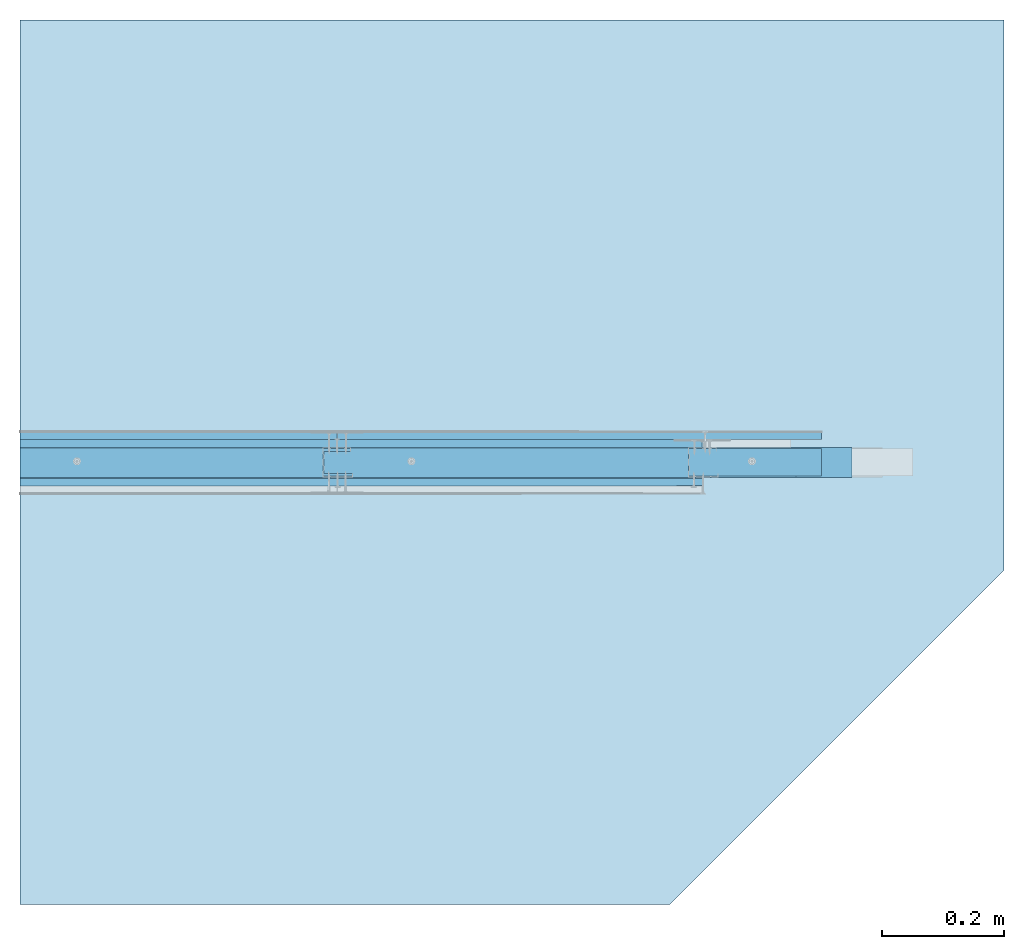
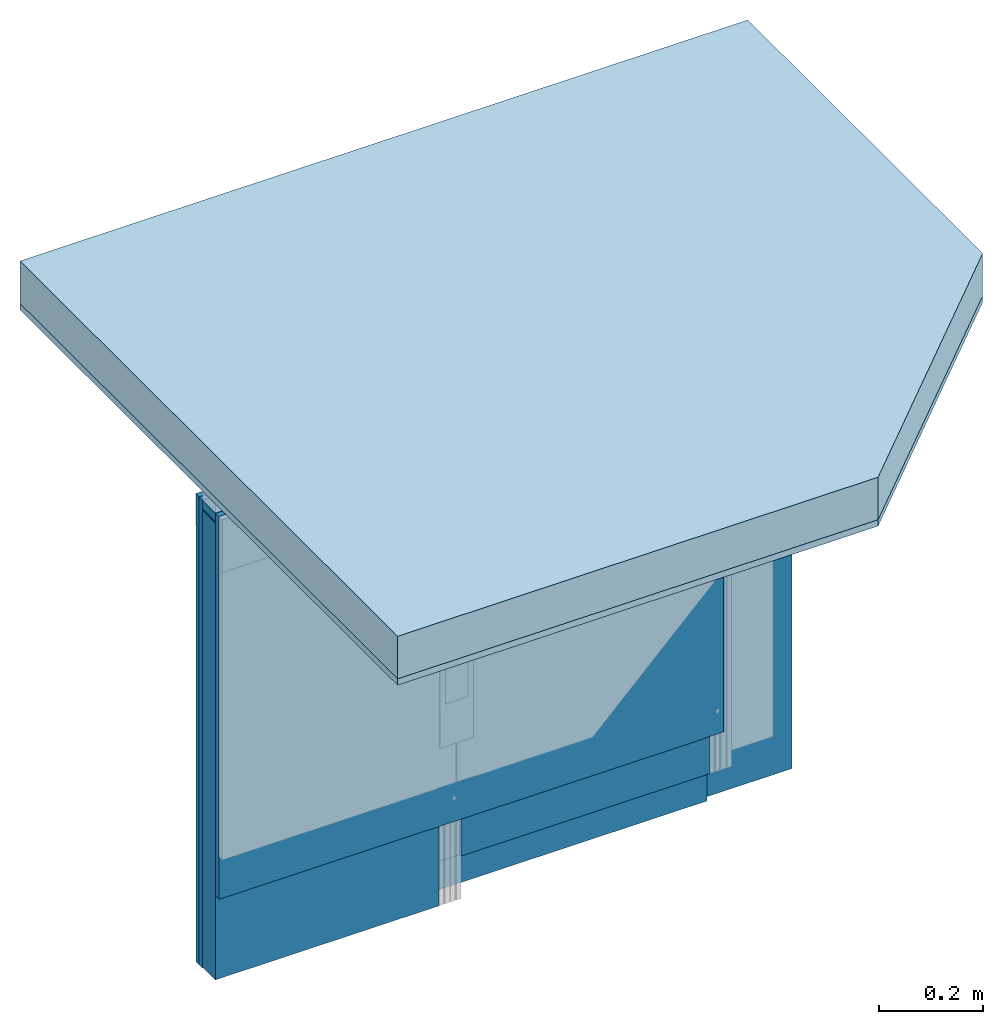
# One storey, part 1 of 36: 9 walls, 2 slabs.
"""IFC2X3 building model written with IfcOpenShell, lengths in millimetres."""

from ifc_helpers import new_model, entity, si_unit, converted_unit, direction, frame, origin, origin_with_axes, place, context, project, spatial, faceted_brep, element, save


model = new_model("IFC2X3")

# Units and contexts
model_context = context("Model", 3, precision=1e-05, world=origin(), true_north=direction((0.0, 1.0, 0.0)))
ifc_project = project(units=[si_unit("LENGTHUNIT", "METRE", prefix="MILLI"), si_unit("AREAUNIT", "SQUARE_METRE"), si_unit("VOLUMEUNIT", "CUBIC_METRE"), converted_unit("PLANEANGLEUNIT", "DEGREE", entity("IfcPlaneAngleMeasure", 0.01745), si_unit("PLANEANGLEUNIT", "RADIAN"), dimensions=[0, 0, 0, 0, 0, 0, 0]), si_unit("SOLIDANGLEUNIT", "STERADIAN"), si_unit("MASSUNIT", "GRAM"), si_unit("TIMEUNIT", "SECOND"), si_unit("THERMODYNAMICTEMPERATUREUNIT", "DEGREE_CELSIUS"), si_unit("LUMINOUSINTENSITYUNIT", "LUMEN")], contexts=[model_context])

# Site, building, storey
site_placement = place(None, origin_with_axes())
site = spatial("IfcSite", under=ifc_project, at=site_placement, Name="Default Site", CompositionType="ELEMENT")
building_placement = place(site_placement, origin_with_axes())
building = spatial("IfcBuilding", under=site, at=building_placement, Name="Default Building", CompositionType="ELEMENT")
storey_placement = place(building_placement, origin_with_axes())
storey = spatial("IfcBuildingStorey", under=building, at=storey_placement, Name="Default Building Storey", CompositionType="ELEMENT", Elevation=0.0)

# Slabs
slab_1_placement = place(storey_placement, frame((3516.951496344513, -1290.142300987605, 1402.224461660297), z_axis=(7.620176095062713e-14, 6.858158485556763e-13, -1.0), x_axis=(1.0, 9.714451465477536e-17, 7.62017609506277e-14)))
element("IfcSlab", 1, at=slab_1_placement, inside=storey, Name="STROP", context=model_context, shape_type="Brep", body=[
    faceted_brep([(226.0891218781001, -3110.283223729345, -4.200000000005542), (-323.9108781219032, -2560.283223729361, -4.200000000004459), (-323.9108781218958, -2560.283223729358, -104.1999999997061), (226.0891218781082, -3110.283223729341, -104.199999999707), (-1391.926362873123, -2560.283223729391, -104.2000000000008), (-1391.92636287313, -2560.28322372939, -4.20000000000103), (-1391.926362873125, -4014.87455750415, -104.1999999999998), (226.0891218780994, -4014.874557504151, -104.1999999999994), (-1391.926362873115, -4014.874557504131, -4.199999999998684), (226.0891218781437, -4014.874557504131, -4.200000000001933)], [[[0, 1, 2, 3]], [[4, 2, 1, 5]], [[6, 7, 3, 2, 4]], [[8, 5, 1, 0, 9]], [[0, 3, 7, 9]], [[6, 8, 9, 7]], [[6, 4, 5, 8]]]),
])
slab_2_placement = place(storey_placement, frame((3516.95149634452, -1290.142300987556, 1302.224461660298), z_axis=(7.620176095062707e-14, 6.858158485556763e-13, -1.0), x_axis=(1.0, 9.714451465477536e-17, 7.62017609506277e-14)))
element("IfcSlab", 2, at=slab_2_placement, inside=storey, Name="TYNK", context=model_context, shape_type="Brep", body=[
    faceted_brep([(226.0891218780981, -3110.283223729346, -89.20000000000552), (-323.9108781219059, -2560.283223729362, -89.2000000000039), (-323.9108781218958, -2560.283223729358, -104.1999999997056), (226.0891218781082, -3110.283223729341, -104.1999999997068), (-1391.926362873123, -2560.283223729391, -104.2000000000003), (-1391.926362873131, -2560.283223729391, -89.20000000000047), (-1391.926362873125, -4014.87455750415, -104.1999999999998), (226.0891218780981, -4014.874557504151, -104.1999999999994), (-1391.926362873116, -4014.874557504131, -89.19999999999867), (226.0891218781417, -4014.874557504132, -89.2000000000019)], [[[0, 1, 2, 3]], [[4, 2, 1, 5]], [[6, 7, 3, 2, 4]], [[8, 5, 1, 0, 9]], [[0, 3, 7, 9]], [[6, 8, 9, 7]], [[6, 4, 5, 8]]]),
])

# Walls
wall_1_placement = place(storey_placement, frame((3247.741854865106, 5452.42414647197, 1344.418092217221), z_axis=(6.44634805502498e-14, -6.858158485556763e-13, -1.0), x_axis=(1.0, -1.14833748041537e-16, 9.007748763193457e-14)))
element("IfcWall", 3, at=wall_1_placement, inside=storey, Name="Taśma uszczelniająca piankowa RIGIPS", context=model_context, shape_type="Brep", body=[
    faceted_brep([(-1122.716721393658, 3477.783223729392, -5.000000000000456), (-1122.716721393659, 3477.862841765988, -6.00636944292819), (-1122.716721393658, 3432.691889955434, -5.864971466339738), (-1122.716721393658, 3432.783223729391, -5.000000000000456), (195.2987633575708, 3477.862841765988, -6.006369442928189), (195.2987633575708, 3477.783223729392, -5.000000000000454), (195.2987633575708, 3432.783223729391, -5.000000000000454), (195.2987633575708, 3432.691889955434, -5.864971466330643)], [[[0, 1, 2, 3]], [[4, 5, 6, 7]], [[5, 0, 3, 6]], [[6, 3, 2, 7]], [[7, 2, 1, 4]], [[4, 1, 0, 5]]]),
])
wall_2_placement = place(storey_placement, frame((3246.843862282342, 2022.140922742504, -35.13257794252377), z_axis=(0.0, 0.0, -1.0), x_axis=(-1.0, -8.049116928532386e-16, 0.0)))
element("IfcWall", 4, at=wall_2_placement, inside=storey, Name="Płyta gipsowo-kartonowa RIGIPS PRO (4PRO™)", context=model_context, shape_type="Brep", body=[
    faceted_brep([(1121.818728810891, 12.50000000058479, -305.5554579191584), (1121.818728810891, -3.609557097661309e-13, -305.5554579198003), (1121.818728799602, 3.495134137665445e-09, -1405.557039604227), (1121.818728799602, 12.50000000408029, -1405.557039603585), (44.99999999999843, 12.50000000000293, -305.5554579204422), (44.99999999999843, 12.50000000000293, -1405.557039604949), (40.99999999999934, 11.50000000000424, -305.5554579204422), (40.99999999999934, 11.50000000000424, -1405.557039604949), (0.9999999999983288, 11.5000000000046, -305.5554579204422), (0.9999999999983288, 11.5000000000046, -1405.557039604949), (0.7411809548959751, 11.46592582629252, -305.5554579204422), (0.7411809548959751, 11.46592582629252, -1405.557039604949), (0.4999999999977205, 11.3660254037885, -305.5554579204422), (0.4999999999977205, 11.3660254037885, -1405.557039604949), (0.29289321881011, 11.20710678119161, -305.5554579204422), (0.29289321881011, 11.20710678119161, -1405.557039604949), (0.1339745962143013, 11.00000000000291, -305.5554579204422), (0.1339745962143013, 11.00000000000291, -1405.557039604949), (0.03407417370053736, 10.7588190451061, -305.5554579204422), (0.03407417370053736, 10.7588190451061, -1405.557039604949), (-2.887645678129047e-12, 10.50000000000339, -305.5554579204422), (-2.887645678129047e-12, 10.50000000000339, -1405.557039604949), (0.0, 0.0, -305.5554579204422), (0.0, 0.0, -1405.557039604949)], [[[0, 1, 2, 3]], [[4, 0, 3, 5]], [[6, 4, 5, 7]], [[8, 6, 7, 9]], [[10, 8, 9, 11]], [[12, 10, 11, 13]], [[14, 12, 13, 15]], [[16, 14, 15, 17]], [[18, 16, 17, 19]], [[20, 18, 19, 21]], [[22, 20, 21, 23]], [[1, 22, 23, 2]], [[2, 23, 21, 19, 17, 15, 13, 11, 9, 7, 5, 3]], [[0, 4, 6, 8, 10, 12, 14, 16, 18, 20, 22, 1]]]),
])
wall_3_placement = place(storey_placement, frame((3207.215400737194, 5452.42414647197, 1344.418092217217), z_axis=(6.446348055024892e-14, -6.858158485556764e-13, -1.0), x_axis=(1.0, -1.14833748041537e-16, 9.00774876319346e-14)))
element("IfcWall", 5, at=wall_3_placement, inside=storey, Name="Profil RIGIPS UW 50 ULTRASTIL®", context=model_context, shape_type="Brep", body=[
    faceted_brep([(-943.956929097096, 3470.476261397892, -4.901701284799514), (-943.956929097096, 3470.287116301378, -4.783410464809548), (-943.956929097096, 3470.128902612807, -4.626130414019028), (-1082.190267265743, 3470.128902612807, -4.626130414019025), (-1082.190267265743, 3470.476261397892, -4.901701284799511), (-943.956929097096, 3470.063927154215, -4.535249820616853), (-943.956929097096, 3470.009494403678, -4.437688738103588), (-1082.190267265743, 3470.009494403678, -4.437688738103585), (-943.956929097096, 3440.279331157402, -4.783410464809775), (-943.956929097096, 3440.090186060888, -4.901701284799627), (-943.956929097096, 3439.87952304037, -4.97511570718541), (-1082.190267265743, 3439.87952304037, -4.975115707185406), (-1082.190267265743, 3440.279331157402, -4.783410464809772), (-943.9569290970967, 3440.819375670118, -2.866589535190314), (-943.9569290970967, 3441.008520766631, -2.748298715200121), (-943.9569290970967, 3441.219183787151, -2.674884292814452), (-1082.190267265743, 3441.219183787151, -2.67488429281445), (-1082.190267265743, 3440.819375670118, -2.866589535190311), (-943.9569290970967, 3469.55792669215, -2.74829871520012), (-943.9569290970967, 3469.747071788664, -2.866589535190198), (-943.9569290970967, 3469.905285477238, -3.023869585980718), (-1082.190267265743, 3469.905285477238, -3.023869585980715), (-1082.190267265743, 3469.55792669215, -2.748298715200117), (-1082.190267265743, 3479.733223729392, 35.00000000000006), (-1082.190267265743, 3480.283223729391, 35.00000000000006), (-1082.190267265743, 3480.283223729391, -4.199999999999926), (-1082.190267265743, 3480.273374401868, -4.325147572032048), (-1082.190267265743, 3480.244068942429, -4.447213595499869), (-1082.190267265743, 3480.196028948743, -4.563192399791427), (-1082.190267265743, 3480.130437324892, -4.670228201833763), (-1082.190267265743, 3480.048909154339, -4.765685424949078), (-1082.190267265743, 3479.953451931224, -4.847213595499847), (-1082.190267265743, 3479.846416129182, -4.912805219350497), (-1082.190267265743, 3479.73043732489, -4.960845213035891), (-1082.190267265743, 3479.608371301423, -4.99015067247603), (-1082.190267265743, 3479.483223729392, -4.999999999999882), (-1082.190267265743, 3470.908620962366, -4.999999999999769), (-1082.190267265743, 3470.686924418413, -4.975115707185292), (-1082.190267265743, 3469.680725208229, -3.762311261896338), (-1082.190267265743, 3469.561316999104, -3.573869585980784), (-1082.190267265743, 3469.403103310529, -3.416589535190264), (-1082.190267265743, 3469.213958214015, -3.298298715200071), (-1082.190267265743, 3469.003295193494, -3.224884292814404), (-1082.190267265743, 3468.781598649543, -3.199999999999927), (-1082.190267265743, 3441.78484880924, -3.199999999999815), (-1082.190267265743, 3441.563152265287, -3.224884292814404), (-1082.190267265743, 3441.352489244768, -3.298298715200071), (-1082.190267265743, 3441.163344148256, -3.416589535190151), (-1082.190267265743, 3441.005130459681, -3.573869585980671), (-1082.190267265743, 3440.885722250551, -3.762311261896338), (-1082.190267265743, 3440.556953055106, -4.437688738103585), (-1082.190267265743, 3440.437544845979, -4.626130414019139), (-1082.190267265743, 3439.657826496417, -4.999999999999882), (-1082.190267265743, 3431.083223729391, -4.999999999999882), (-1082.190267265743, 3430.95807615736, -4.990150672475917), (-1082.190267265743, 3430.83601013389, -4.960845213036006), (-1082.190267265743, 3430.720031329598, -4.912805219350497), (-1082.190267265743, 3430.612995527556, -4.847213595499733), (-1082.190267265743, 3430.51753830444, -4.765685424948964), (-1082.190267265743, 3430.436010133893, -4.670228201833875), (-1082.190267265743, 3430.370418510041, -4.563192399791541), (-1082.190267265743, 3430.322378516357, -4.447213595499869), (-1082.190267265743, 3430.293073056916, -4.325147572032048), (-1082.190267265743, 3430.283223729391, -4.199999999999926), (-1082.190267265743, 3430.283223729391, 35.00000000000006), (-1082.190267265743, 3430.833223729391, 35.00000000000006), (-1082.190267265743, 3430.833223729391, -4.199999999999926), (-1082.190267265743, 3430.836301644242, -4.23910861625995), (-1082.190267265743, 3430.845459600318, -4.27725424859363), (-1082.190267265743, 3430.860472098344, -4.313497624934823), (-1082.190267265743, 3430.880969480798, -4.346946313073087), (-1082.190267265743, 3430.906447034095, -4.376776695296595), (-1082.190267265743, 3430.936277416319, -4.402254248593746), (-1082.190267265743, 3430.969726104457, -4.422751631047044), (-1082.190267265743, 3431.005969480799, -4.437764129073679), (-1082.190267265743, 3431.044115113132, -4.44692208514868), (-1082.190267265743, 3431.083223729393, -4.449999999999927), (-1082.190267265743, 3439.313858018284, -4.45000000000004), (-1082.190267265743, 3439.535554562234, -4.425115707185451), (-1082.190267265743, 3439.746217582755, -4.351701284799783), (-1082.190267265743, 3439.935362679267, -4.233410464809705), (-1082.190267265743, 3440.093576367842, -4.076130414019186), (-1082.190267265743, 3440.212984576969, -3.887688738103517), (-1082.190267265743, 3440.541753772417, -3.212311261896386), (-1082.190267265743, 3440.661161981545, -3.02386958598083), (-1082.190267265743, 3441.440880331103, -2.649999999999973), (-1082.190267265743, 3469.125567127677, -2.649999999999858), (-1082.190267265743, 3469.347263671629, -2.674884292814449), (-1082.190267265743, 3470.024693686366, -3.212311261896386), (-1082.190267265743, 3470.353462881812, -3.887688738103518), (-1082.190267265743, 3470.472871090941, -4.076130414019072), (-1082.190267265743, 3470.631084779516, -4.233410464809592), (-1082.190267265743, 3470.820229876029, -4.351701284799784), (-1082.190267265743, 3471.030892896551, -4.425115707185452), (-1082.190267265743, 3471.252589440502, -4.449999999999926), (-1082.190267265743, 3479.483223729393, -4.449999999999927), (-1082.190267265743, 3479.522332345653, -4.446922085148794), (-1082.190267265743, 3479.560477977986, -4.437764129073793), (-1082.190267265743, 3479.596721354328, -4.422751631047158), (-1082.190267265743, 3479.630170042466, -4.402254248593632), (-1082.190267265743, 3479.660000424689, -4.376776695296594), (-1082.190267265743, 3479.685477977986, -4.346946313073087), (-1082.190267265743, 3479.705975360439, -4.313497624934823), (-1082.190267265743, 3479.720987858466, -4.27725424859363), (-1082.190267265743, 3479.730145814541, -4.23910861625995), (-1082.190267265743, 3479.733223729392, -4.199999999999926), (193.5273232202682, 3480.283223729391, -4.200000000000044), (193.5273232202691, 3480.283223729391, 35.0), (193.5273232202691, 3479.733223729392, 35.0), (193.5273232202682, 3479.733223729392, -4.200000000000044), (193.5273232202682, 3479.730145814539, -4.239108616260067), (193.5273232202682, 3479.720987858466, -4.277254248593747), (193.5273232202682, 3479.705975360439, -4.313497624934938), (193.5273232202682, 3479.685477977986, -4.346946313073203), (193.5273232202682, 3479.660000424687, -4.376776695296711), (193.5273232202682, 3479.630170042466, -4.402254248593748), (193.5273232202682, 3479.596721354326, -4.422751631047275), (193.5273232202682, 3479.560477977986, -4.43776412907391), (193.5273232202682, 3479.522332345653, -4.446922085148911), (193.5273232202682, 3479.483223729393, -4.450000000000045), (193.5273232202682, 3471.252589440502, -4.450000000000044), (193.5273232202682, 3471.030892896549, -4.425115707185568), (193.5273232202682, 3470.820229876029, -4.3517012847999), (193.5273232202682, 3470.631084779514, -4.233410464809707), (193.5273232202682, 3470.472871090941, -4.076130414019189), (193.5273232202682, 3470.353462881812, -3.887688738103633), (193.5273232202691, 3470.024693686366, -3.212311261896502), (193.5273232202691, 3469.905285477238, -3.023869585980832), (193.5273232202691, 3469.747071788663, -2.866589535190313), (193.5273232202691, 3469.55792669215, -2.748298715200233), (193.5273232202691, 3469.347263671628, -2.674884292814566), (193.5273232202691, 3469.125567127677, -2.649999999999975), (193.5273232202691, 3441.440880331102, -2.650000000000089), (193.5273232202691, 3441.219183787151, -2.674884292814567), (193.5273232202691, 3441.008520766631, -2.748298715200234), (193.5273232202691, 3440.819375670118, -2.866589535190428), (193.5273232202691, 3440.661161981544, -3.023869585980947), (193.5273232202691, 3440.541753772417, -3.212311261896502), (193.5273232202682, 3440.212984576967, -3.887688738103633), (193.5273232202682, 3440.093576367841, -4.076130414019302), (193.5273232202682, 3439.935362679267, -4.233410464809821), (193.5273232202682, 3439.746217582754, -4.3517012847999), (193.5273232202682, 3439.535554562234, -4.425115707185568), (193.5273232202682, 3439.313858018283, -4.450000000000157), (193.5273232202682, 3431.083223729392, -4.450000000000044), (193.5273232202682, 3431.044115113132, -4.446922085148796), (193.5273232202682, 3431.005969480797, -4.437764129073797), (193.5273232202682, 3430.969726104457, -4.422751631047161), (193.5273232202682, 3430.936277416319, -4.402254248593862), (193.5273232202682, 3430.906447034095, -4.376776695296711), (193.5273232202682, 3430.880969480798, -4.346946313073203), (193.5273232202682, 3430.860472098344, -4.313497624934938), (193.5273232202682, 3430.845459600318, -4.277254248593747), (193.5273232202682, 3430.836301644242, -4.239108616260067), (193.5273232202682, 3430.833223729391, -4.200000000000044), (193.5273232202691, 3430.833223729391, 35.0), (193.5273232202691, 3430.283223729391, 35.0), (193.5273232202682, 3430.283223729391, -4.200000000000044), (193.5273232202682, 3430.293073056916, -4.325147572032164), (193.5273232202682, 3430.322378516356, -4.447213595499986), (193.5273232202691, 3430.370418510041, -4.563192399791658), (193.5273232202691, 3430.436010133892, -4.670228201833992), (193.5273232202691, 3430.51753830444, -4.765685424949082), (193.5273232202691, 3430.612995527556, -4.84721359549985), (193.5273232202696, 3430.720031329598, -4.912805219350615), (193.5273232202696, 3430.83601013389, -4.960845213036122), (193.5273232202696, 3430.958076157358, -4.990150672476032), (193.5273232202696, 3431.083223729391, -4.999999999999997), (193.5273232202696, 3439.657826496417, -4.999999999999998), (193.5273232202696, 3439.879523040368, -4.975115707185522), (193.5273232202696, 3440.090186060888, -4.901701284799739), (193.5273232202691, 3440.279331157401, -4.783410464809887), (193.5273232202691, 3440.437544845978, -4.626130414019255), (193.5273232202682, 3440.556953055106, -4.437688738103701), (193.5273232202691, 3440.88572225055, -3.762311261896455), (193.5273232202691, 3441.005130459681, -3.573869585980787), (193.5273232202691, 3441.163344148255, -3.416589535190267), (193.5273232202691, 3441.352489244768, -3.298298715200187), (193.5273232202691, 3441.563152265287, -3.22488429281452), (193.5273232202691, 3441.78484880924, -3.199999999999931), (193.5273232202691, 3468.781598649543, -3.200000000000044), (193.5273232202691, 3469.003295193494, -3.22488429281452), (193.5273232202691, 3469.213958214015, -3.298298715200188), (193.5273232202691, 3469.403103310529, -3.416589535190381), (193.5273232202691, 3469.561316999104, -3.5738695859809), (193.5273232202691, 3469.680725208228, -3.762311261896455), (193.5273232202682, 3470.009494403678, -4.437688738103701), (193.5273232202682, 3470.063927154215, -4.535249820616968), (193.5273232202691, 3470.128902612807, -4.626130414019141), (193.5273232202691, 3470.287116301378, -4.783410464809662), (193.5273232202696, 3470.476261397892, -4.901701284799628), (193.5273232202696, 3470.686924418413, -4.975115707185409), (193.5273232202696, 3470.908620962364, -4.999999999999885), (193.5273232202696, 3479.483223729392, -4.999999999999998), (193.5273232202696, 3479.608371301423, -4.990150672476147), (193.5273232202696, 3479.730437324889, -4.960845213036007), (193.5273232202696, 3479.846416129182, -4.912805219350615), (193.5273232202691, 3479.953451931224, -4.847213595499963), (193.5273232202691, 3480.048909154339, -4.765685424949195), (193.5273232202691, 3480.130437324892, -4.670228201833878), (193.5273232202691, 3480.196028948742, -4.563192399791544), (193.5273232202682, 3480.244068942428, -4.447213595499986), (193.5273232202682, 3480.273374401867, -4.325147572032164)], [[[0, 1, 2, 3, 4]], [[2, 5, 6, 7, 3]], [[8, 9, 10, 11, 12]], [[13, 14, 15, 16, 17]], [[18, 19, 20, 21, 22]], [[23, 24, 25, 26, 27, 28, 29, 30, 31, 32, 33, 34, 35, 36, 37, 4, 3, 7, 38, 39, 40, 41, 42, 43, 44, 45, 46, 47, 48, 49, 50, 51, 12, 11, 52, 53, 54, 55, 56, 57, 58, 59, 60, 61, 62, 63, 64, 65, 66, 67, 68, 69, 70, 71, 72, 73, 74, 75, 76, 77, 78, 79, 80, 81, 82, 83, 84, 17, 16, 85, 86, 87, 22, 21, 88, 89, 90, 91, 92, 93, 94, 95, 96, 97, 98, 99, 100, 101, 102, 103, 104, 105]], [[106, 107, 108, 109, 110, 111, 112, 113, 114, 115, 116, 117, 118, 119, 120, 121, 122, 123, 124, 125, 126, 127, 128, 129, 130, 131, 132, 133, 134, 135, 136, 137, 138, 139, 140, 141, 142, 143, 144, 145, 146, 147, 148, 149, 150, 151, 152, 153, 154, 155, 156, 157, 158, 159, 160, 161, 162, 163, 164, 165, 166, 167, 168, 169, 170, 171, 172, 173, 174, 175, 176, 177, 178, 179, 180, 181, 182, 183, 184, 185, 186, 187, 188, 189, 190, 191, 192, 193, 194, 195, 196, 197, 198, 199, 200, 201, 202]], [[63, 157, 156, 64]], [[64, 156, 155, 65]], [[65, 155, 154, 66]], [[144, 76, 75, 145]], [[74, 146, 145, 75]], [[73, 147, 146, 74]], [[147, 73, 72, 148]], [[71, 149, 148, 72]], [[149, 71, 70, 150]], [[69, 151, 150, 70]], [[68, 152, 151, 69]], [[152, 68, 67, 153]], [[66, 154, 153, 67]], [[76, 144, 143, 77]], [[81, 139, 138, 82]], [[80, 140, 139, 81]], [[79, 141, 140, 80]], [[143, 142, 78, 77]], [[78, 142, 141, 79]], [[82, 138, 137, 83]], [[15, 133, 132, 85, 16]], [[14, 134, 133, 15]], [[13, 135, 134, 14]], [[84, 136, 135, 13, 17]], [[137, 136, 84, 83]], [[85, 132, 131, 86]], [[20, 127, 126, 88, 21]], [[19, 128, 127, 20]], [[18, 129, 128, 19]], [[87, 130, 129, 18, 22]], [[131, 130, 87, 86]], [[88, 126, 125, 89]], [[93, 121, 120, 94]], [[92, 122, 121, 93]], [[91, 123, 122, 92]], [[125, 124, 90, 89]], [[90, 124, 123, 91]], [[94, 120, 119, 95]], [[109, 105, 104, 110]], [[103, 111, 110, 104]], [[102, 112, 111, 103]], [[112, 102, 101, 113]], [[100, 114, 113, 101]], [[114, 100, 99, 115]], [[98, 116, 115, 99]], [[97, 117, 116, 98]], [[117, 97, 96, 118]], [[95, 119, 118, 96]], [[105, 109, 108, 23]], [[23, 108, 107, 24]], [[24, 107, 106, 25]], [[33, 195, 194, 34]], [[194, 193, 35, 34]], [[32, 196, 195, 33]], [[30, 198, 197, 31]], [[197, 196, 32, 31]], [[28, 200, 199, 29]], [[199, 198, 30, 29]], [[27, 201, 200, 28]], [[25, 106, 202, 26]], [[202, 201, 27, 26]], [[35, 193, 192, 36]], [[5, 2, 188, 187]], [[187, 186, 6, 5]], [[1, 189, 188, 2]], [[0, 190, 189, 1]], [[37, 191, 190, 0, 4]], [[192, 191, 37, 36]], [[6, 186, 185, 38, 7]], [[42, 181, 180, 43]], [[41, 182, 181, 42]], [[40, 183, 182, 41]], [[185, 184, 39, 38]], [[39, 184, 183, 40]], [[43, 180, 179, 44]], [[48, 175, 174, 49]], [[47, 176, 175, 48]], [[46, 177, 176, 47]], [[179, 178, 45, 44]], [[45, 178, 177, 46]], [[49, 174, 173, 50]], [[10, 169, 168, 52, 11]], [[9, 170, 169, 10]], [[8, 171, 170, 9]], [[51, 172, 171, 8, 12]], [[173, 172, 51, 50]], [[52, 168, 167, 53]], [[61, 159, 158, 62]], [[158, 157, 63, 62]], [[60, 160, 159, 61]], [[58, 162, 161, 59]], [[161, 160, 60, 59]], [[56, 164, 163, 57]], [[163, 162, 58, 57]], [[55, 165, 164, 56]], [[53, 167, 166, 54]], [[166, 165, 55, 54]]]),
])
wall_4_placement = place(storey_placement, frame((2786.490947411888, 5452.42414647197, 1344.098118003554), z_axis=(0.0, 0.0, -1.0), x_axis=(1.0, 0.0, 0.0)))
element("IfcWall", 6, at=wall_4_placement, inside=storey, Name="Wełna mineralna szklana lub skalna ISOVER", context=model_context, shape_type="Brep", body=[
    faceted_brep([(-161.2958819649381, 3473.633223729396, -2.969974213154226), (-161.2958819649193, 3473.633223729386, 971.6752380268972), (-114.6214102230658, 3473.633223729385, 971.6752380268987), (-114.6214102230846, 3473.633223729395, -2.969974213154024), (-114.6214102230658, 3479.633223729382, 971.6752380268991), (-114.6214102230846, 3479.633223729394, -2.969974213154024), (-161.2958819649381, 3436.833223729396, -2.969974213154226), (-161.2958819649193, 3436.833223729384, 971.6752380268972), (-117.6214102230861, 3436.833223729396, -2.969974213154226), (-117.6214102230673, 3436.833223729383, 971.6752380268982), (-117.6214102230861, 3431.283223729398, -2.969974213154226), (437.5658080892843, 3431.283223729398, -2.969974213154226), (437.5658080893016, 3431.283223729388, 971.6752380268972), (-117.6214102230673, 3431.283223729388, 971.6752380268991), (437.5658080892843, 3479.633223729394, -2.969974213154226), (437.5658080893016, 3479.633223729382, 971.6752380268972)], [[[0, 1, 2, 3]], [[3, 2, 4, 5]], [[1, 0, 6, 7]], [[7, 6, 8, 9]], [[10, 11, 12, 13]], [[9, 8, 10, 13]], [[3, 5, 14, 11, 10, 8, 6, 0]], [[4, 15, 14, 5]], [[15, 4, 2, 1, 7, 9, 13, 12]], [[14, 15, 12, 11]]]),
])
wall_5_placement = place(storey_placement, frame((3268.314756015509, 1972.150772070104, 1358.038854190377), z_axis=(0.0, 0.0, -1.0), x_axis=(1.0, 0.0, 0.0)))
element("IfcWall", 7, at=wall_5_placement, inside=storey, Name="Płyta gipsowa RIGIPS GLASROC F (Ridurit)", context=model_context, shape_type="Brep", body=[
    faceted_brep([(224.7258622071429, -49.99015067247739, -12.30000000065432), (224.7258622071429, 0.0, -12.30000000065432), (-1143.289622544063, 0.0, -12.30000000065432), (-1143.289622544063, -49.99015067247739, -12.30000000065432), (224.7258622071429, 0.0, 7.614392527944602), (-1143.289622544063, 0.0, 7.614392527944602), (224.7258622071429, -49.99015067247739, 7.614392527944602), (-1143.289622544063, -49.99015067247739, 7.614392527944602)], [[[0, 1, 2, 3]], [[1, 4, 5, 2]], [[4, 6, 7, 5]], [[6, 0, 3, 7]], [[7, 3, 2, 5]], [[0, 6, 4, 1]]]),
])
wall_6_placement = place(storey_placement, frame((2172.059826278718, 5452.42414647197, 1344.214973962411), z_axis=(0.0, 0.0, -1.0), x_axis=(1.0, 0.0, 0.0)))
element("IfcWall", 8, at=wall_6_placement, inside=storey, Name="Wełna mineralna szklana lub skalna ISOVER", context=model_context, shape_type="Brep", body=[
    faceted_brep([(-47.03469280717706, 3431.283223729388, 1071.79209398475), (-47.0346928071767, 3479.633223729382, 1071.79209398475), (-47.03469280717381, 3479.633223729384, -2.853118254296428), (-47.03469280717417, 3431.283223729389, -2.853118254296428), (450.8097109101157, 3431.283223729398, -2.853118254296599), (450.8097109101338, 3431.283223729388, 1071.792093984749), (450.8097109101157, 3479.633223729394, -2.853118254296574), (450.8097109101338, 3479.633223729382, 1071.792093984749)], [[[0, 1, 2, 3]], [[3, 4, 5, 0]], [[2, 6, 4, 3]], [[2, 1, 7, 6]], [[0, 5, 7, 1]], [[6, 7, 5, 4]]]),
])
wall_7_placement = place(storey_placement, frame((2048.42964872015, 1971.180077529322, 220.422879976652), z_axis=(0.0, 0.0, -1.0), x_axis=(1.0, 0.0, 0.0)))
element("IfcWall", 9, at=wall_7_placement, inside=storey, Name="Płyta gipsowo-kartonowa RIGIPS PRO (4PRO™)", context=model_context, shape_type="Brep", body=[
    faceted_brep([(76.59548475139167, 0.0, -249.9999999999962), (76.59548475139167, 12.50000000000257, -249.9999999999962), (76.59548475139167, 12.50000000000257, -1150.001581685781), (76.59548475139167, 0.0, -1150.001581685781), (1200.0, 0.0, -249.9999999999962), (1200.000000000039, 10.49999999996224, -249.9999999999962), (1199.965925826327, 10.75881904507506, -249.9999999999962), (1199.866025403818, 10.99999999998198, -249.9999999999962), (1199.707106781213, 11.20710678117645, -249.9999999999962), (1199.50000000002, 11.36602540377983, -249.9999999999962), (1199.258819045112, 11.46592582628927, -249.9999999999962), (1199.0, 11.50000000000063, -249.9999999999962), (1158.999999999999, 11.50000000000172, -249.9999999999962), (1155.000000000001, 12.49999999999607, -249.9999999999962), (1199.965925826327, 10.75881904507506, -1150.001581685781), (1199.866025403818, 10.99999999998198, -1150.001581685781), (1199.707106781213, 11.20710678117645, -1150.001581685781), (1199.50000000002, 11.36602540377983, -1150.001581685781), (1199.258819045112, 11.46592582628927, -1150.001581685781), (1199.0, 11.50000000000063, -1150.001581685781), (1158.999999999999, 11.50000000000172, -1150.001581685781), (1155.000000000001, 12.49999999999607, -1150.001581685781), (1200.0, 0.0, -1150.001581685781), (1200.000000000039, 10.49999999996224, -1150.001581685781)], [[[0, 1, 2, 3]], [[0, 4, 5, 6, 7, 8, 9, 10, 11, 12, 13, 1]], [[7, 6, 14, 15]], [[8, 7, 15, 16]], [[9, 8, 16, 17]], [[10, 9, 17, 18]], [[11, 10, 18, 19]], [[12, 11, 19, 20]], [[13, 12, 20, 21]], [[2, 1, 13, 21]], [[3, 22, 4, 0]], [[5, 4, 22, 23]], [[6, 5, 23, 14]], [[14, 23, 22, 3, 2, 21, 20, 19, 18, 17, 16, 15]]]),
])
wall_8_placement = place(storey_placement, frame((2647.429648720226, 2034.640922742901, 320.4228799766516), z_axis=(0.0, 0.0, -1.0), x_axis=(1.0, 0.0, 0.0)))
element("IfcWall", 10, at=wall_8_placement, inside=storey, Name="Płyta gipsowo-kartonowa RIGIPS PRO (4PRO™)", context=model_context, shape_type="Brep", body=[
    faceted_brep([(795.6109695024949, -12.49999999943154, 49.99999999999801), (795.6109695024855, 5.40711653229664e-10, 49.99999999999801), (795.6109695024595, 5.371020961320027e-10, -1050.001581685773), (795.6109695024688, -12.49999999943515, -1050.001581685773), (44.99999999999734, -12.50000000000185, 50.00000000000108), (40.99999999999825, -11.50000000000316, 50.00000000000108), (0.9999999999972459, -11.50000000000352, 50.00000000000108), (0.7411809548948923, -11.46592582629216, 50.00000000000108), (0.4999999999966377, -11.36602540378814, 50.00000000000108), (0.2928932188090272, -11.20710678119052, 50.00000000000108), (0.1339745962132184, -11.00000000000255, 50.00000000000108), (0.0340741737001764, -10.75881904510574, 50.00000000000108), (-3.248601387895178e-12, -10.50000000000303, 50.00000000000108), (-1.082867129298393e-12, 3.609557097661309e-13, 50.00000000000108), (44.99999999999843, -12.50000000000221, -1050.001581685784), (40.99999999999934, -11.50000000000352, -1050.001581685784), (0.9999999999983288, -11.50000000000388, -1050.001581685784), (0.7411809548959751, -11.46592582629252, -1050.001581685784), (0.4999999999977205, -11.3660254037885, -1050.001581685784), (0.29289321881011, -11.20710678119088, -1050.001581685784), (0.1339745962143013, -11.00000000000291, -1050.001581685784), (0.03407417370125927, -10.7588190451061, -1050.001581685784), (-2.165734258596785e-12, -10.50000000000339, -1050.001581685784), (0.0, 0.0, -1050.001581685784)], [[[0, 1, 2, 3]], [[0, 4, 5, 6, 7, 8, 9, 10, 11, 12, 13, 1]], [[3, 14, 4, 0]], [[5, 4, 14, 15]], [[6, 5, 15, 16]], [[7, 6, 16, 17]], [[8, 7, 17, 18]], [[9, 8, 18, 19]], [[10, 9, 19, 20]], [[11, 10, 20, 21]], [[12, 11, 21, 22]], [[13, 12, 22, 23]], [[2, 1, 13, 23]], [[14, 3, 2, 23, 22, 21, 20, 19, 18, 17, 16, 15]]]),
])
wall_9_placement = place(storey_placement, frame((2646.429648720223, 2034.640922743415, 320.4228799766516), z_axis=(0.0, 0.0, -1.0), x_axis=(-1.0, 0.0, 0.0)))
element("IfcWall", 11, at=wall_9_placement, inside=storey, Name="Płyta gipsowo-kartonowa RIGIPS PRO (4PRO™)", context=model_context, shape_type="Brep", body=[
    faceted_brep([(521.4045152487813, 12.4999999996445, 50.00000000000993), (521.4045152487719, -3.277477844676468e-10, 50.00000000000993), (521.404515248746, -3.241382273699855e-10, -1050.001581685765), (521.4045152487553, 12.49999999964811, -1050.001581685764), (44.99999999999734, 12.50000000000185, 50.00000000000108), (40.99999999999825, 11.50000000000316, 50.00000000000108), (0.9999999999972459, 11.50000000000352, 50.00000000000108), (0.7411809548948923, 11.46592582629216, 50.00000000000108), (0.4999999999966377, 11.36602540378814, 50.00000000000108), (0.2928932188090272, 11.20710678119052, 50.00000000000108), (0.1339745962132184, 11.00000000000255, 50.00000000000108), (0.0340741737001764, 10.75881904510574, 50.00000000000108), (-3.248601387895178e-12, 10.50000000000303, 50.00000000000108), (-1.082867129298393e-12, -3.609557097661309e-13, 50.00000000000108), (44.99999999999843, 12.50000000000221, -1050.001581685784), (40.99999999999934, 11.50000000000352, -1050.001581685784), (0.9999999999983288, 11.50000000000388, -1050.001581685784), (0.7411809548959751, 11.46592582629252, -1050.001581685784), (0.4999999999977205, 11.3660254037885, -1050.001581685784), (0.29289321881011, 11.20710678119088, -1050.001581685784), (0.1339745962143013, 11.00000000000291, -1050.001581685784), (0.03407417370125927, 10.7588190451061, -1050.001581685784), (-2.165734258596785e-12, 10.50000000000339, -1050.001581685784), (0.0, 0.0, -1050.001581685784)], [[[0, 1, 2, 3]], [[0, 4, 5, 6, 7, 8, 9, 10, 11, 12, 13, 1]], [[3, 14, 4, 0]], [[5, 4, 14, 15]], [[6, 5, 15, 16]], [[7, 6, 16, 17]], [[8, 7, 17, 18]], [[9, 8, 18, 19]], [[10, 9, 19, 20]], [[11, 10, 20, 21]], [[12, 11, 21, 22]], [[13, 12, 22, 23]], [[2, 1, 13, 23]], [[14, 3, 2, 23, 22, 21, 20, 19, 18, 17, 16, 15]]]),
])

save(model, "model.ifc")
